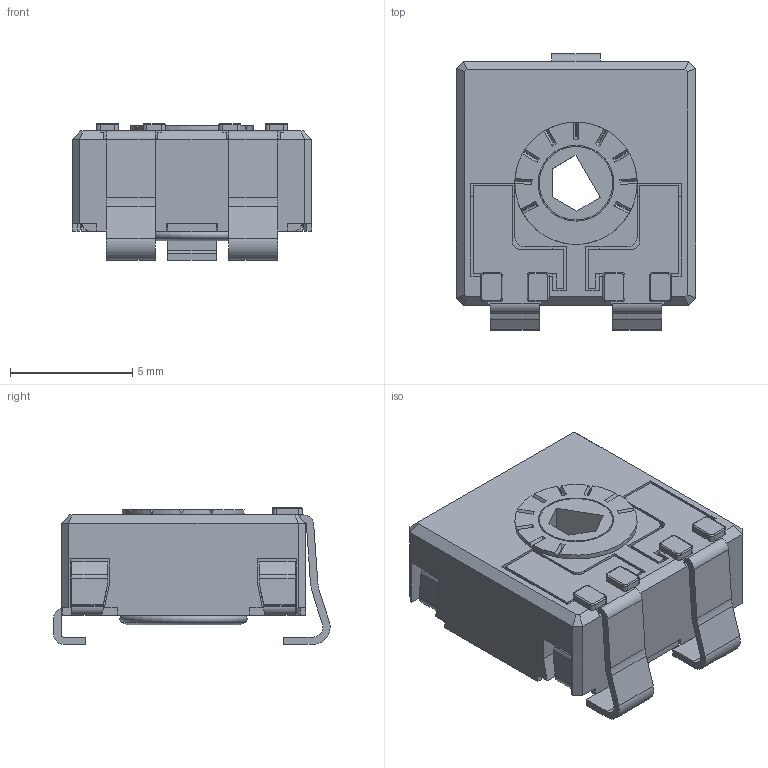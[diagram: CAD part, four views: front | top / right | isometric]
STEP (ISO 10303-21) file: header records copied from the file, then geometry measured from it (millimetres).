
FILE_DESCRIPTION(/* description */ (''),/* implementation_level */ '2;1');
FILE_NAME(/* name */ 'C:\Users\CEM\Desktop\ENVIAR\CE9CVSMD.stp',/* time_stamp */ '2025-09-29T09:27:12+02:00',/* author */ ('CEM'),/* organization */ (''),/* preprocessor_version */ 'ST-DEVELOPER v17',/* originating_system */ 'Autodesk Inventor 2018',/* authorisation */ '');
FILE_SCHEMA (('AUTOMOTIVE_DESIGN { 1 0 10303 214 3 1 1 }'));
Length unit declared in the file: millimetre
Products named in the file (1): CE9CVSMD
Bounding box: 9.8 x 11.3 x 5.6 mm (x, y, z)
Volume: 247.5 mm3; surface area: 839.8 mm2
Topology: 2 solids, 2 shells, 499 faces, 1441 edges, 920 vertices
Faces by surface type: plane 386, cylinder 78, torus 19, cone 16
Full cylindrical faces by diameter (mm): 3 x1, 3.1 x1, 4 x1, 4.8 x1, 5 x1
Entity records: 16444 total; most frequent: CARTESIAN_POINT 2913, ORIENTED_EDGE 2882, DIRECTION 2688, EDGE_CURVE 1441, LINE 1142, VECTOR 1142, VERTEX_POINT 920, AXIS2_PLACEMENT_3D 773
